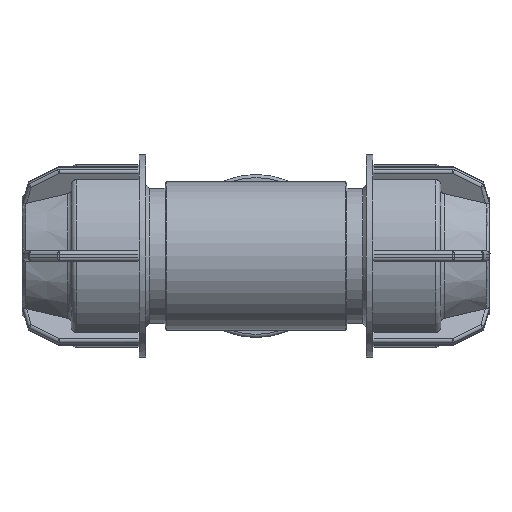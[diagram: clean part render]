
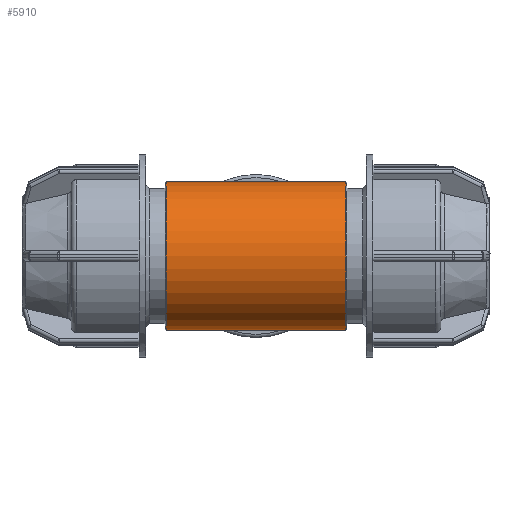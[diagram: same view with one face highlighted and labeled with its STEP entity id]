
A CAD part, front view. The second image highlights one B-rep face of the part: STEP entity #5910.
In plain terms, the highlighted cylindrical face has radius 14.3 mm (diameter 28.6 mm), a full revolution.
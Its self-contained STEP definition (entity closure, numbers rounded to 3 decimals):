
#837=B_SPLINE_CURVE_WITH_KNOTS('',3,(#8988,#8989,#8990,#8991,#8992,#8993,
#8994,#8995,#8996,#8997,#8998,#8999,#9000,#9001,#9002,#9003,#9004,#9005,
#9006,#9007,#9008,#9009,#9010,#9011,#9012,#9013,#9014,#9015,#9016,#9017,
#9018,#9019,#9020,#9021,#9022,#9023,#9024,#9025,#9026,#9027,#9028,#9029,
#9030,#9031,#9032,#9033,#9034,#9035,#9036,#9037),.UNSPECIFIED.,.T.,.F.,
(4,2,2,2,2,2,2,2,2,2,2,2,2,2,2,2,2,2,2,2,2,2,2,2,4),(0.,0.219,
0.438,0.877,1.306,1.52,1.734,
1.948,2.163,2.591,3.03,3.249,
3.468,3.688,3.907,4.345,4.774,
4.988,5.202,5.417,5.631,6.06,
6.498,6.717,6.937),.UNSPECIFIED.);
#1019=CYLINDRICAL_SURFACE('',#6329,14.3);
#1339=FACE_BOUND('',#1800,.T.);
#1340=FACE_BOUND('',#1801,.T.);
#1383=FACE_OUTER_BOUND('',#1799,.T.);
#1799=EDGE_LOOP('',(#4064));
#1800=EDGE_LOOP('',(#4065));
#1801=EDGE_LOOP('',(#4066));
#2254=CIRCLE('',#6326,14.3);
#2256=CIRCLE('',#6330,14.3);
#2603=VERTEX_POINT('',#8979);
#2605=VERTEX_POINT('',#8985);
#2606=VERTEX_POINT('',#8987);
#3146=EDGE_CURVE('',#2603,#2603,#2254,.T.);
#3148=EDGE_CURVE('',#2605,#2605,#2256,.T.);
#3149=EDGE_CURVE('',#2606,#2606,#837,.T.);
#4064=ORIENTED_EDGE('',*,*,#3148,.F.);
#4065=ORIENTED_EDGE('',*,*,#3149,.F.);
#4066=ORIENTED_EDGE('',*,*,#3146,.F.);
#5910=ADVANCED_FACE('',(#1383,#1339,#1340),#1019,.T.);
#6326=AXIS2_PLACEMENT_3D('',#8980,#7093,#7094);
#6329=AXIS2_PLACEMENT_3D('',#8984,#7099,#7100);
#6330=AXIS2_PLACEMENT_3D('',#8986,#7101,#7102);
#7093=DIRECTION('center_axis',(-1.,0.,0.));
#7094=DIRECTION('ref_axis',(0.,-1.,0.));
#7099=DIRECTION('center_axis',(1.,0.,0.));
#7100=DIRECTION('ref_axis',(0.,1.,0.));
#7101=DIRECTION('center_axis',(1.,0.,0.));
#7102=DIRECTION('ref_axis',(0.,-1.,0.));
#8979=CARTESIAN_POINT('',(-17.3,14.3,0.));
#8980=CARTESIAN_POINT('Origin',(-17.3,0.,0.));
#8984=CARTESIAN_POINT('Origin',(8.75,0.,0.));
#8985=CARTESIAN_POINT('',(17.3,14.3,0.));
#8986=CARTESIAN_POINT('Origin',(17.3,0.,0.));
#8987=CARTESIAN_POINT('',(0.,9.312,-10.853));
#8988=CARTESIAN_POINT('Ctrl Pts',(0.,9.312,
10.853));
#8989=CARTESIAN_POINT('Ctrl Pts',(0.731,9.312,10.853));
#8990=CARTESIAN_POINT('Ctrl Pts',(1.463,9.4,10.778));
#8991=CARTESIAN_POINT('Ctrl Pts',(2.888,9.725,10.487));
#8992=CARTESIAN_POINT('Ctrl Pts',(3.581,9.959,10.27));
#8993=CARTESIAN_POINT('Ctrl Pts',(5.554,10.776,9.433));
#8994=CARTESIAN_POINT('Ctrl Pts',(6.731,11.467,8.617));
#8995=CARTESIAN_POINT('Ctrl Pts',(8.595,12.652,6.753));
#8996=CARTESIAN_POINT('Ctrl Pts',(9.424,13.243,5.573));
#8997=CARTESIAN_POINT('Ctrl Pts',(10.272,13.863,3.577));
#8998=CARTESIAN_POINT('Ctrl Pts',(10.49,14.027,2.875));
#8999=CARTESIAN_POINT('Ctrl Pts',(10.781,14.245,1.443));
#9000=CARTESIAN_POINT('Ctrl Pts',(10.853,14.3,0.714));
#9001=CARTESIAN_POINT('Ctrl Pts',(10.853,14.3,-0.714));
#9002=CARTESIAN_POINT('Ctrl Pts',(10.781,14.245,-1.443));
#9003=CARTESIAN_POINT('Ctrl Pts',(10.49,14.027,-2.875));
#9004=CARTESIAN_POINT('Ctrl Pts',(10.272,13.863,-3.577));
#9005=CARTESIAN_POINT('Ctrl Pts',(9.424,13.243,-5.573));
#9006=CARTESIAN_POINT('Ctrl Pts',(8.595,12.652,-6.753));
#9007=CARTESIAN_POINT('Ctrl Pts',(6.731,11.467,-8.617));
#9008=CARTESIAN_POINT('Ctrl Pts',(5.554,10.776,-9.433));
#9009=CARTESIAN_POINT('Ctrl Pts',(3.581,9.959,-10.27));
#9010=CARTESIAN_POINT('Ctrl Pts',(2.888,9.725,-10.487));
#9011=CARTESIAN_POINT('Ctrl Pts',(1.463,9.4,-10.778));
#9012=CARTESIAN_POINT('Ctrl Pts',(0.731,9.312,-10.853));
#9013=CARTESIAN_POINT('Ctrl Pts',(-0.731,9.312,-10.853));
#9014=CARTESIAN_POINT('Ctrl Pts',(-1.463,9.4,-10.778));
#9015=CARTESIAN_POINT('Ctrl Pts',(-2.888,9.725,-10.487));
#9016=CARTESIAN_POINT('Ctrl Pts',(-3.581,9.959,-10.27));
#9017=CARTESIAN_POINT('Ctrl Pts',(-5.554,10.776,-9.433));
#9018=CARTESIAN_POINT('Ctrl Pts',(-6.731,11.467,-8.617));
#9019=CARTESIAN_POINT('Ctrl Pts',(-8.595,12.652,-6.753));
#9020=CARTESIAN_POINT('Ctrl Pts',(-9.424,13.243,-5.573));
#9021=CARTESIAN_POINT('Ctrl Pts',(-10.272,13.863,-3.577));
#9022=CARTESIAN_POINT('Ctrl Pts',(-10.49,14.027,-2.875));
#9023=CARTESIAN_POINT('Ctrl Pts',(-10.781,14.245,-1.443));
#9024=CARTESIAN_POINT('Ctrl Pts',(-10.853,14.3,-0.714));
#9025=CARTESIAN_POINT('Ctrl Pts',(-10.853,14.3,0.714));
#9026=CARTESIAN_POINT('Ctrl Pts',(-10.781,14.245,1.443));
#9027=CARTESIAN_POINT('Ctrl Pts',(-10.49,14.027,2.875));
#9028=CARTESIAN_POINT('Ctrl Pts',(-10.272,13.863,3.577));
#9029=CARTESIAN_POINT('Ctrl Pts',(-9.424,13.243,5.573));
#9030=CARTESIAN_POINT('Ctrl Pts',(-8.595,12.652,6.753));
#9031=CARTESIAN_POINT('Ctrl Pts',(-6.731,11.467,8.617));
#9032=CARTESIAN_POINT('Ctrl Pts',(-5.554,10.776,9.433));
#9033=CARTESIAN_POINT('Ctrl Pts',(-3.581,9.959,10.27));
#9034=CARTESIAN_POINT('Ctrl Pts',(-2.888,9.725,10.487));
#9035=CARTESIAN_POINT('Ctrl Pts',(-1.463,9.4,10.778));
#9036=CARTESIAN_POINT('Ctrl Pts',(-0.731,9.312,10.853));
#9037=CARTESIAN_POINT('Ctrl Pts',(0.,9.312,
10.853));
